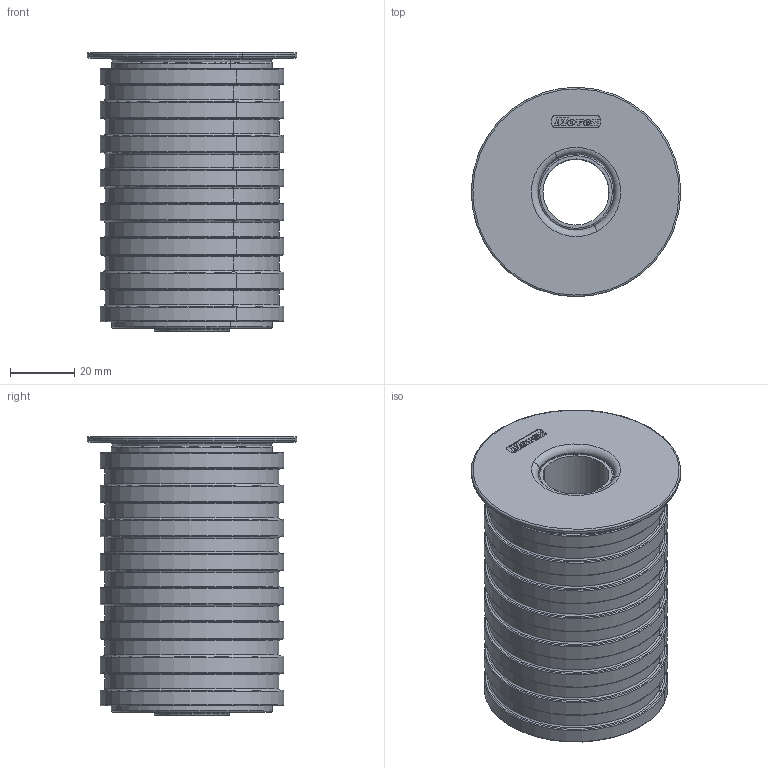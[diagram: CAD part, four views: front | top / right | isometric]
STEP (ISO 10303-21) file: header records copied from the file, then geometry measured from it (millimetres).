
FILE_DESCRIPTION(('STEP AP214'),'1');
FILE_NAME('P22513','2017-03-07T07:37:34',('dentellad'),(' '),'Spatial InterOp 3D',' ',' ');
FILE_SCHEMA(('automotive_design'));
Length unit declared in the file: millimetre
Products named in the file (2): 1; 2
Bounding box: 64.98 x 64.98 x 86.5 mm (x, y, z)
Volume: 178285.9 mm3; surface area: 55148.6 mm2
Topology: 2 solids, 2 shells, 622 faces, 1699 edges, 1107 vertices
Faces by surface type: plane 464, torus 108, cylinder 48, cone 2
Entity records: 32850 total; most frequent: CARTESIAN_POINT 3430, ORIENTED_EDGE 3398, DIRECTION 3294, STYLED_ITEM 2289, PRESENTATION_STYLE_ASSIGNMENT 2289, COLOUR_RGB 2289, EDGE_CURVE 1699, CURVE_STYLE 1665
